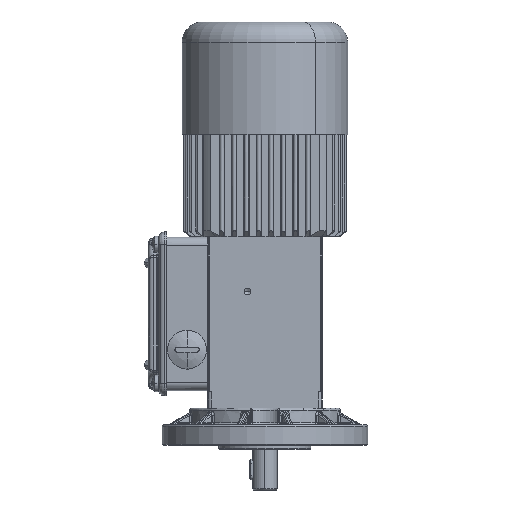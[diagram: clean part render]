
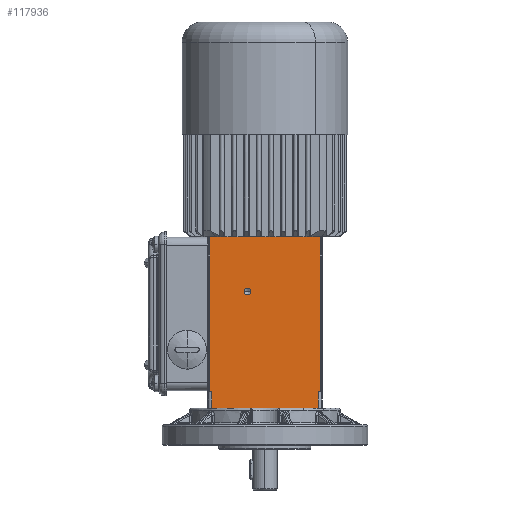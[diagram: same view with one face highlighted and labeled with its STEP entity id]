
A CAD part, front view. The second image highlights one B-rep face of the part: STEP entity #117936.
In plain terms, the highlighted planar face has unit normal (0, -1, 0).
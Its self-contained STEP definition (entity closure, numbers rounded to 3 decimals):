
#13765=CARTESIAN_POINT('',(26.,-28.,-37.85));
#13766=VERTEX_POINT('',#13765);
#13774=CARTESIAN_POINT('',(26.,-28.,-45.85));
#13775=VERTEX_POINT('',#13774);
#13776=CARTESIAN_POINT('',(26.,-28.,-37.85));
#13777=DIRECTION('',(0.0,0.0,-1.0));
#13778=VECTOR('',#13777,8.0);
#13779=LINE('',#13776,#13778);
#13780=EDGE_CURVE('',#13766,#13775,#13779,.T.);
#15552=CARTESIAN_POINT('',(-27.,-28.,-37.85));
#15553=VERTEX_POINT('',#15552);
#15561=CARTESIAN_POINT('',(-27.,-28.,37.85));
#15562=VERTEX_POINT('',#15561);
#15563=CARTESIAN_POINT('',(-27.,-28.,-37.85));
#15564=DIRECTION('',(0.0,0.0,1.0));
#15565=VECTOR('',#15564,75.7);
#15566=LINE('',#15563,#15565);
#15567=EDGE_CURVE('',#15553,#15562,#15566,.T.);
#17437=CARTESIAN_POINT('',(-6.879,-28.0,11.15));
#17438=VERTEX_POINT('',#17437);
#17454=CARTESIAN_POINT('',(-10.121,-28.0,11.15));
#17455=VERTEX_POINT('',#17454);
#17462=CARTESIAN_POINT('',(-8.5,-28.,11.15));
#17463=DIRECTION('',(0.0,1.0,0.0));
#17464=DIRECTION('',(1.0,0.0,0.0));
#17465=AXIS2_PLACEMENT_3D('',#17462,#17463,#17464);
#17466=CIRCLE('',#17465,1.621);
#17467=EDGE_CURVE('',#17438,#17455,#17466,.T.);
#23326=CARTESIAN_POINT('',(-24.187,-28.,37.85));
#23327=VERTEX_POINT('',#23326);
#50733=CARTESIAN_POINT('',(-23.415,-28.,-45.85));
#50734=VERTEX_POINT('',#50733);
#50735=CARTESIAN_POINT('',(23.415,-28.,-45.85));
#50736=VERTEX_POINT('',#50735);
#50737=CARTESIAN_POINT('',(-23.415,-28.,-45.85));
#50738=DIRECTION('',(1.0,0.0,0.0));
#50739=VECTOR('',#50738,46.829);
#50740=LINE('',#50737,#50739);
#50741=EDGE_CURVE('',#50734,#50736,#50740,.T.);
#76661=CARTESIAN_POINT('',(-26.,-28.,-45.85));
#76662=VERTEX_POINT('',#76661);
#76663=CARTESIAN_POINT('',(-26.,-28.,-45.85));
#76664=DIRECTION('',(1.0,0.0,0.0));
#76665=VECTOR('',#76664,2.585);
#76666=LINE('',#76663,#76665);
#76667=EDGE_CURVE('',#76662,#50734,#76666,.T.);
#76739=CARTESIAN_POINT('',(23.415,-28.,-45.85));
#76740=DIRECTION('',(1.0,0.0,0.0));
#76741=VECTOR('',#76740,2.585);
#76742=LINE('',#76739,#76741);
#76743=EDGE_CURVE('',#50736,#13775,#76742,.T.);
#101345=CARTESIAN_POINT('',(24.187,-28.,37.85));
#101346=VERTEX_POINT('',#101345);
#101451=CARTESIAN_POINT('',(24.187,-28.,37.85));
#101452=DIRECTION('',(-1.0,0.0,0.0));
#101453=VECTOR('',#101452,48.374);
#101454=LINE('',#101451,#101453);
#101455=EDGE_CURVE('',#101346,#23327,#101454,.T.);
#115410=CARTESIAN_POINT('',(-24.187,-28.,37.85));
#115411=DIRECTION('',(-1.0,0.0,0.0));
#115412=VECTOR('',#115411,2.813);
#115413=LINE('',#115410,#115412);
#115414=EDGE_CURVE('',#23327,#15562,#115413,.T.);
#115917=CARTESIAN_POINT('',(-8.5,-28.,11.15));
#115918=DIRECTION('',(0.0,1.0,0.0));
#115919=DIRECTION('',(1.0,0.0,0.0));
#115920=AXIS2_PLACEMENT_3D('',#115917,#115918,#115919);
#115921=CIRCLE('',#115920,1.621);
#115922=EDGE_CURVE('',#17455,#17438,#115921,.T.);
#117436=CARTESIAN_POINT('',(27.,-28.,37.85));
#117437=VERTEX_POINT('',#117436);
#117438=CARTESIAN_POINT('',(27.,-28.,37.85));
#117439=DIRECTION('',(-1.0,0.0,0.0));
#117440=VECTOR('',#117439,2.813);
#117441=LINE('',#117438,#117440);
#117442=EDGE_CURVE('',#117437,#101346,#117441,.T.);
#117468=CARTESIAN_POINT('',(27.,-28.,-37.85));
#117469=VERTEX_POINT('',#117468);
#117470=CARTESIAN_POINT('',(27.,-28.,37.85));
#117471=DIRECTION('',(0.0,0.0,-1.0));
#117472=VECTOR('',#117471,75.7);
#117473=LINE('',#117470,#117472);
#117474=EDGE_CURVE('',#117437,#117469,#117473,.T.);
#117896=CARTESIAN_POINT('',(28.,-28.,-37.85));
#117897=DIRECTION('',(0.0,-1.0,0.0));
#117898=DIRECTION('',(0.0,0.0,-1.0));
#117899=AXIS2_PLACEMENT_3D('',#117896,#117897,#117898);
#117900=PLANE('',#117899);
#117901=ORIENTED_EDGE('',*,*,#117474,.F.);
#117902=ORIENTED_EDGE('',*,*,#117442,.T.);
#117903=ORIENTED_EDGE('',*,*,#101455,.T.);
#117904=ORIENTED_EDGE('',*,*,#115414,.T.);
#117905=ORIENTED_EDGE('',*,*,#15567,.F.);
#117906=CARTESIAN_POINT('',(-26.,-28.,-37.85));
#117907=VERTEX_POINT('',#117906);
#117908=CARTESIAN_POINT('',(-27.,-28.,-37.85));
#117909=DIRECTION('',(1.0,0.0,0.0));
#117910=VECTOR('',#117909,1.);
#117911=LINE('',#117908,#117910);
#117912=EDGE_CURVE('',#15553,#117907,#117911,.T.);
#117913=ORIENTED_EDGE('',*,*,#117912,.T.);
#117914=CARTESIAN_POINT('',(-26.,-28.,-45.85));
#117915=DIRECTION('',(0.0,0.0,1.0));
#117916=VECTOR('',#117915,8.0);
#117917=LINE('',#117914,#117916);
#117918=EDGE_CURVE('',#76662,#117907,#117917,.T.);
#117919=ORIENTED_EDGE('',*,*,#117918,.F.);
#117920=ORIENTED_EDGE('',*,*,#76667,.T.);
#117921=ORIENTED_EDGE('',*,*,#50741,.T.);
#117922=ORIENTED_EDGE('',*,*,#76743,.T.);
#117923=ORIENTED_EDGE('',*,*,#13780,.F.);
#117924=CARTESIAN_POINT('',(26.,-28.,-37.85));
#117925=DIRECTION('',(1.0,0.,0.));
#117926=VECTOR('',#117925,1.);
#117927=LINE('',#117924,#117926);
#117928=EDGE_CURVE('',#13766,#117469,#117927,.T.);
#117929=ORIENTED_EDGE('',*,*,#117928,.T.);
#117930=EDGE_LOOP('',(#117901,#117902,#117903,#117904,#117905,#117913,#117919,#117920,#117921,#117922,#117923,#117929));
#117931=FACE_OUTER_BOUND('',#117930,.T.);
#117932=ORIENTED_EDGE('',*,*,#17467,.T.);
#117933=ORIENTED_EDGE('',*,*,#115922,.T.);
#117934=EDGE_LOOP('',(#117932,#117933));
#117935=FACE_BOUND('',#117934,.T.);
#117936=ADVANCED_FACE('',(#117931,#117935),#117900,.T.);
